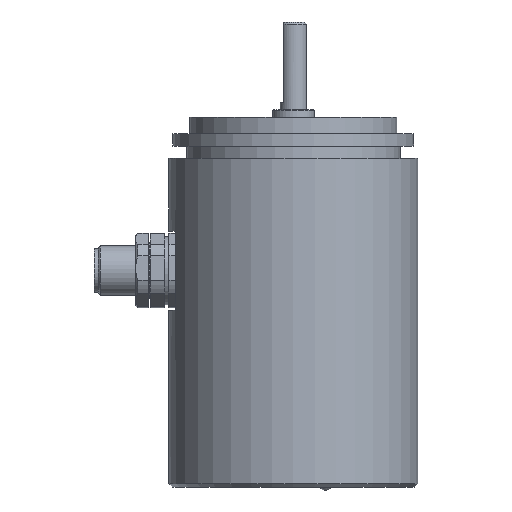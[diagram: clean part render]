
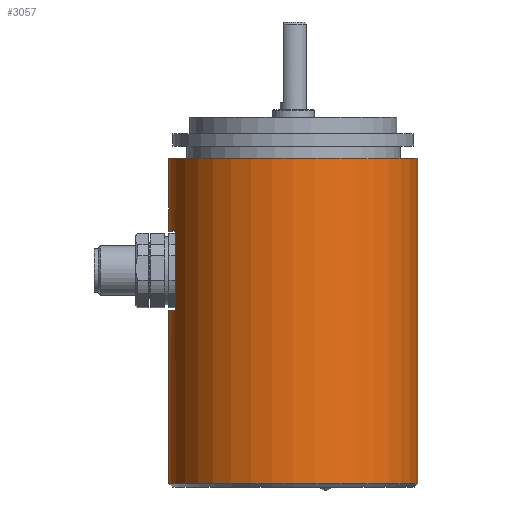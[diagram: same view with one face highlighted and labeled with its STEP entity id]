
A CAD part, left-side view. The second image highlights one B-rep face of the part: STEP entity #3057.
In plain terms, the highlighted cylindrical face has radius 30 mm (diameter 60 mm), a full revolution.
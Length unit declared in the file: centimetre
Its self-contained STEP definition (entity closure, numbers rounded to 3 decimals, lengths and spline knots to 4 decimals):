
#169=VECTOR('',#4990,1.);
#170=VECTOR('',#4993,1.);
#272=LINE('',#3942,#169);
#273=LINE('',#3946,#170);
#387=CYLINDRICAL_SURFACE('',#3366,3.);
#624=VERTEX_POINT('',#3938);
#625=VERTEX_POINT('',#3940);
#626=VERTEX_POINT('',#3941);
#627=VERTEX_POINT('',#3943);
#628=VERTEX_POINT('',#3945);
#629=VERTEX_POINT('',#3948);
#913=CIRCLE('',#3367,3.);
#914=CIRCLE('',#3368,3.);
#915=CIRCLE('',#3369,3.);
#916=CIRCLE('',#3370,3.);
#1157=EDGE_CURVE('',#624,#624,#913,.T.);
#1158=EDGE_CURVE('',#625,#626,#914,.T.);
#1159=EDGE_CURVE('',#626,#627,#272,.T.);
#1160=EDGE_CURVE('',#627,#628,#915,.T.);
#1161=EDGE_CURVE('',#628,#625,#273,.T.);
#1162=EDGE_CURVE('',#629,#629,#916,.T.);
#1551=ORIENTED_EDGE('',*,*,#1157,.F.);
#1552=ORIENTED_EDGE('',*,*,#1158,.T.);
#1553=ORIENTED_EDGE('',*,*,#1159,.T.);
#1554=ORIENTED_EDGE('',*,*,#1160,.T.);
#1555=ORIENTED_EDGE('',*,*,#1161,.T.);
#1556=ORIENTED_EDGE('',*,*,#1162,.F.);
#2254=EDGE_LOOP('',(#1551));
#2255=EDGE_LOOP('',(#1552,#1553,#1554,#1555));
#2256=EDGE_LOOP('',(#1556));
#2671=FACE_BOUND('',#2254,.T.);
#2672=FACE_BOUND('',#2255,.T.);
#2673=FACE_BOUND('',#2256,.T.);
#3057=ADVANCED_FACE('',(#2671,#2672,#2673),#387,.T.);
#3366=AXIS2_PLACEMENT_3D('',#3936,#4984,#4985);
#3367=AXIS2_PLACEMENT_3D('',#3937,#4986,#4987);
#3368=AXIS2_PLACEMENT_3D('',#3939,#4988,#4989);
#3369=AXIS2_PLACEMENT_3D('',#3944,#4991,#4992);
#3370=AXIS2_PLACEMENT_3D('',#3947,#4994,#4995);
#3936=CARTESIAN_POINT('',(0.,0.,0.2));
#3937=CARTESIAN_POINT('',(0.,0.,-7.44));
#3938=CARTESIAN_POINT('',(-3.,0.,-7.44));
#3939=CARTESIAN_POINT('',(0.,0.,-3.253));
#3940=CARTESIAN_POINT('',(-0.9488,2.846,-3.253));
#3941=CARTESIAN_POINT('',(0.9488,2.846,-3.253));
#3942=CARTESIAN_POINT('',(0.9488,2.846,-2.303));
#3943=CARTESIAN_POINT('',(0.9488,2.846,-1.353));
#3944=CARTESIAN_POINT('',(0.,0.,-1.353));
#3945=CARTESIAN_POINT('',(-0.9488,2.846,-1.353));
#3946=CARTESIAN_POINT('',(-0.9488,2.846,-2.303));
#3947=CARTESIAN_POINT('',(0.,0.,0.4));
#3948=CARTESIAN_POINT('',(0.,3.,0.4));
#4984=DIRECTION('',(0.,0.,1.));
#4985=DIRECTION('',(0.,3.,0.));
#4986=DIRECTION('',(0.,0.,-1.));
#4987=DIRECTION('',(3.,0.,0.));
#4988=DIRECTION('',(0.,0.,-1.));
#4989=DIRECTION('',(3.,0.,0.));
#4990=DIRECTION('',(0.,0.,1.));
#4991=DIRECTION('',(0.,0.,1.));
#4992=DIRECTION('',(3.,0.,0.));
#4993=DIRECTION('',(0.,0.,-1.));
#4994=DIRECTION('',(0.,0.,1.));
#4995=DIRECTION('',(0.,3.,0.));
